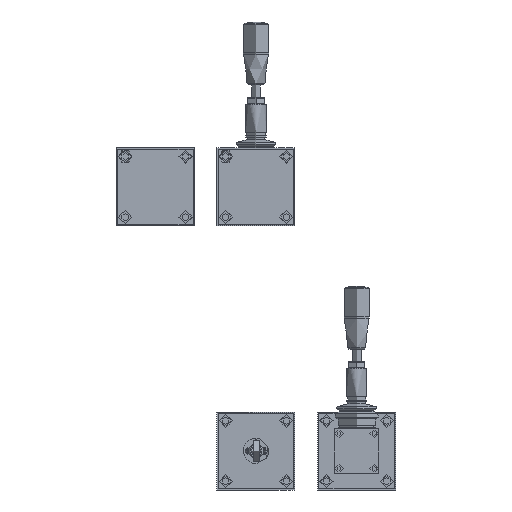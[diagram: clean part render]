
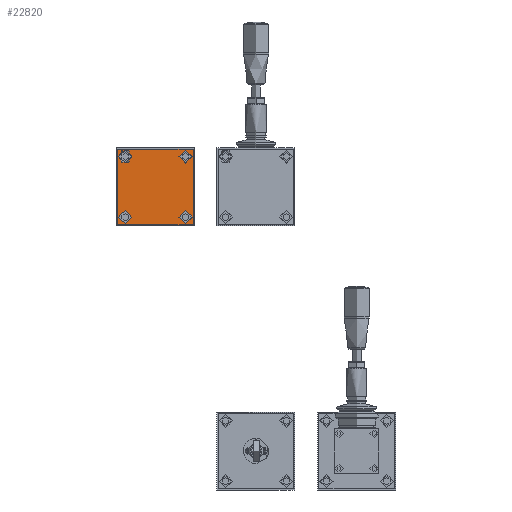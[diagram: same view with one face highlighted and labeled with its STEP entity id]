
A CAD part, left-side view. The second image highlights one B-rep face of the part: STEP entity #22820.
In plain terms, the highlighted planar face has unit normal (-1, 0, 0).
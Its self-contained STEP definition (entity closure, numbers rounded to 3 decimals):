
#22820=ADVANCED_FACE('', (#22830,#22840,#22850,#22860,#22870), #22880, 
.T.);
#78870=AXIS2_PLACEMENT_3D('Ax2Pl3d', #78880, #78890, #78900);
#78950=AXIS2_PLACEMENT_3D('Ax2Pl3d', #78960, #78970, #78980);
#79030=AXIS2_PLACEMENT_3D('Ax2Pl3d', #79040, #79050, #79060);
#79110=AXIS2_PLACEMENT_3D('Ax2Pl3d', #79120, #79130, #79140);
#79470=AXIS2_PLACEMENT_3D('Ax2Pl3d', #79480, #79490, #79500);
#78880=CARTESIAN_POINT('HicPkt', (-348.4,215.04,265.04));
#184860=CARTESIAN_POINT('', (-348.4,209.79,265.04));
#78960=CARTESIAN_POINT('HicPkt', (-348.4,166.96,265.04));
#184870=CARTESIAN_POINT('', (-348.4,172.21,265.04));
#79040=CARTESIAN_POINT('HicPkt', (-348.4,166.96,216.96));
#184880=CARTESIAN_POINT('', (-348.4,172.21,216.96));
#79120=CARTESIAN_POINT('HicPkt', (-348.4,215.04,216.96));
#184890=CARTESIAN_POINT('', (-348.4,220.29,216.96));
#79480=CARTESIAN_POINT('HicPkt', (-348.4,221.,211.));
#184940=CARTESIAN_POINT('', (-348.4,221.,211.));
#184950=CARTESIAN_POINT('', (-348.4,161.,211.));
#184960=CARTESIAN_POINT('', (-348.4,221.,211.));
#184970=CARTESIAN_POINT('', (-348.4,161.,211.));
#184980=CARTESIAN_POINT('', (-348.4,161.,271.));
#184990=CARTESIAN_POINT('', (-348.4,161.,271.));
#185000=CARTESIAN_POINT('', (-348.4,221.,271.));
#185010=CARTESIAN_POINT('', (-348.4,221.,271.));
#198940=CIRCLE('Circle', #78870, 5.25);
#198950=CIRCLE('Circle', #78950, 5.25);
#198960=CIRCLE('Circle', #79030, 5.25);
#198970=CIRCLE('Circle', #79110, 5.25);
#78890=DIRECTION('Axis', (-1.,0.,0.)
);
#78900=DIRECTION('RefDirection', (0.,
0.,-1.));
#78970=DIRECTION('Axis', (-1.,0.,0.)
);
#78980=DIRECTION('RefDirection', (0.,
0.,-1.));
#79050=DIRECTION('Axis', (-1.,0.,0.)
);
#79060=DIRECTION('RefDirection', (0.,
0.,-1.));
#79130=DIRECTION('Axis', (-1.,0.,0.)
);
#79140=DIRECTION('RefDirection', (0.,
0.,-1.));
#79490=DIRECTION('Axis', (-1.,0.,
0.));
#79500=DIRECTION('RefDirection', (0.,
0.,-1.));
#269800=DIRECTION('', (0.,1.,0.));
#269810=DIRECTION('', (0.,0.,-1.));
#269820=DIRECTION('', (0.,-1.,0.));
#269830=DIRECTION('', (0.,0.,1.));
#295780=EDGE_CURVE('', #295790, #295790, #198940, .T.);
#295800=EDGE_CURVE('', #295810, #295810, #198950, .T.);
#295820=EDGE_CURVE('', #295830, #295830, #198960, .T.);
#295840=EDGE_CURVE('', #295850, #295850, #198970, .T.);
#295940=EDGE_CURVE('', #295950, #295960, #295970, .T.);
#295980=EDGE_CURVE('', #295990, #295950, #296000, .T.);
#296010=EDGE_CURVE('', #296020, #295990, #296030, .T.);
#296040=EDGE_CURVE('', #295960, #296020, #296050, .T.);
#340860=EDGE_LOOP('Edge_loop', (#340870,#340880,#340890,#340900));
#340910=EDGE_LOOP('Edge_loop', (#340920));
#340930=EDGE_LOOP('Edge_loop', (#340940));
#340950=EDGE_LOOP('Edge_loop', (#340960));
#340970=EDGE_LOOP('Edge_loop', (#340980));
#22840=FACE_BOUND('', #340910, .T.);
#22850=FACE_BOUND('', #340930, .T.);
#22860=FACE_BOUND('', #340950, .T.);
#22870=FACE_BOUND('', #340970, .T.);
#22830=FACE_OUTER_BOUND('Face_outer_bound', #340860, .T.);
#295970=LINE('Line', #184940, #394390);
#296000=LINE('Line', #184970, #394400);
#296030=LINE('Line', #184990, #394410);
#296050=LINE('Line', #185010, #394420);
#340870=ORIENTED_EDGE('', *, *, #295940, .F.);
#340880=ORIENTED_EDGE('', *, *, #295980, .F.);
#340890=ORIENTED_EDGE('', *, *, #296010, .F.);
#340900=ORIENTED_EDGE('', *, *, #296040, .F.);
#340920=ORIENTED_EDGE('', *, *, #295780, .F.);
#340940=ORIENTED_EDGE('', *, *, #295800, .F.);
#340960=ORIENTED_EDGE('', *, *, #295820, .F.);
#340980=ORIENTED_EDGE('', *, *, #295840, .F.);
#22880=PLANE('Plane', #79470);
#394390=VECTOR('', #269800, 60.);
#394400=VECTOR('', #269810, 60.);
#394410=VECTOR('', #269820, 60.);
#394420=VECTOR('', #269830, 60.);
#295790=VERTEX_POINT('', #184860);
#295810=VERTEX_POINT('', #184870);
#295830=VERTEX_POINT('', #184880);
#295850=VERTEX_POINT('', #184890);
#295950=VERTEX_POINT('', #184950);
#295960=VERTEX_POINT('', #184960);
#295990=VERTEX_POINT('', #184980);
#296020=VERTEX_POINT('', #185000);
